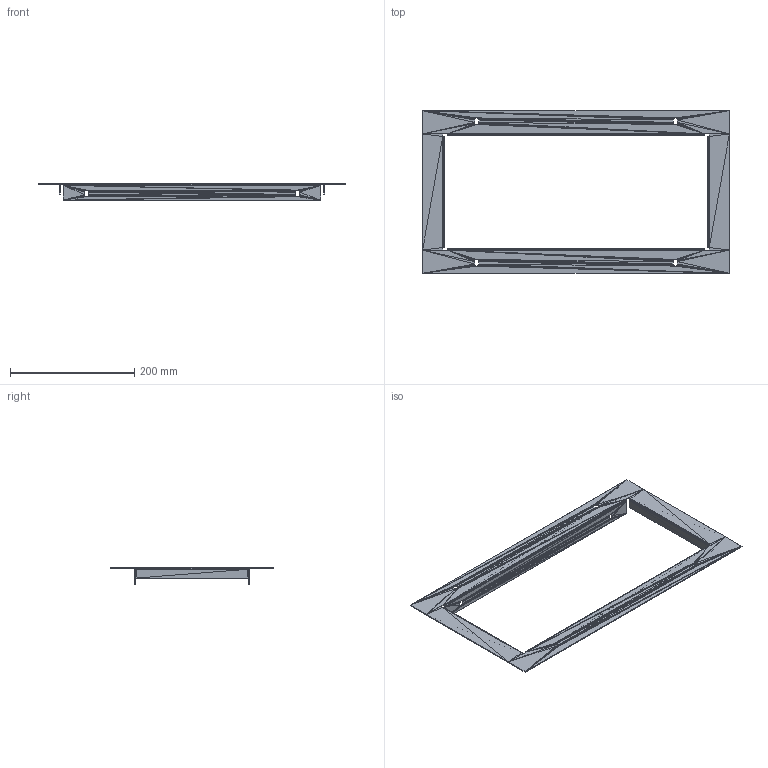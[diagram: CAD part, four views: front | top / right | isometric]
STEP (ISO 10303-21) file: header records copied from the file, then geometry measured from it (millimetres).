
FILE_DESCRIPTION((''),'2;1');
FILE_NAME('025130', '2025-09-03T05:42:58', (''), (''), 'ImageToStl.com STEP Converter','', '');
FILE_SCHEMA(('AUTOMOTIVE_DESIGN_CC2'));
Length unit declared in the file: metre
Products named in the file (1): product0
Bounding box: 494 x 262 x 26.5 mm (x, y, z)
Surface area: 158804.9 mm2 (no closed solid volume)
Topology: 0 solids, 688 shells, 688 faces, 2064 edges, 334 vertices
Faces by surface type: plane 688
Entity records: 15832 total; most frequent: DIRECTION 3442, ORIENTED_EDGE 2064, EDGE_CURVE 2064, LINE 2064, VECTOR 2064, AXIS2_PLACEMENT_3D 689, FACE_SURFACE 688, PLANE 688
